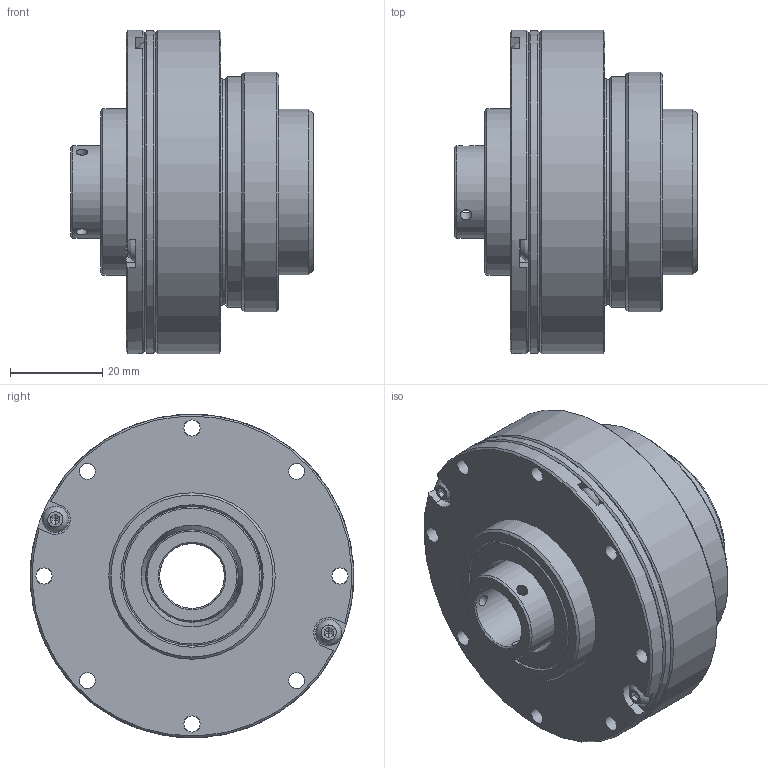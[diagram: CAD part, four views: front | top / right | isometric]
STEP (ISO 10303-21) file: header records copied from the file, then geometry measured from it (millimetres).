
FILE_DESCRIPTION (( 'STEP AP203' ), '1' );
FILE_NAME ('LHS-14-XXX-CL-III.STEP', '2025-01-07T05:57:08', ( '' ), ( '' ), 'SwSTEP 2.0', 'SolidWorks 2023', '' );
FILE_SCHEMA (( 'CONFIG_CONTROL_DESIGN' ));
Length unit declared in the file: metre
Products named in the file (1): LHS-14-XXX-CL-III
Bounding box: 52.5 x 70 x 70 mm (x, y, z)
Volume: 85798.3 mm3; surface area: 77769.3 mm2
Topology: 47 solids, 47 shells, 773 faces, 2134 edges, 1374 vertices
Faces by surface type: plane 263, cylinder 224, bspline 220, cone 66
Full cylindrical faces by diameter (mm): 2.5 x19, 3 x8, 3.5 x46, 3.7 x8, 5.5 x4, 6.5 x4, 14 x2, 14.5 x1, 19.8 x3, 20 x6, 22 x2, 24 x6, 24.1 x1, 25 x1, 25.07 x1, 26.5 x2, 26.707 x2, 27.6 x3, 28 x4, 29.5 x1, 30 x6, 30.3 x2, 31.4 x1, 32 x4, 32.36 x2, 33.92 x1, 34.088 x1, 34.588 x1, 34.7 x1, 35.499 x1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
Entity records: 30518 total; most frequent: CARTESIAN_POINT 13996, ORIENTED_EDGE 3268, DIRECTION 3048, EDGE_CURVE 1634, AXIS2_PLACEMENT_3D 1366, EDGE_LOOP 1290, VERTEX_POINT 1222, FACE_OUTER_BOUND 1013
